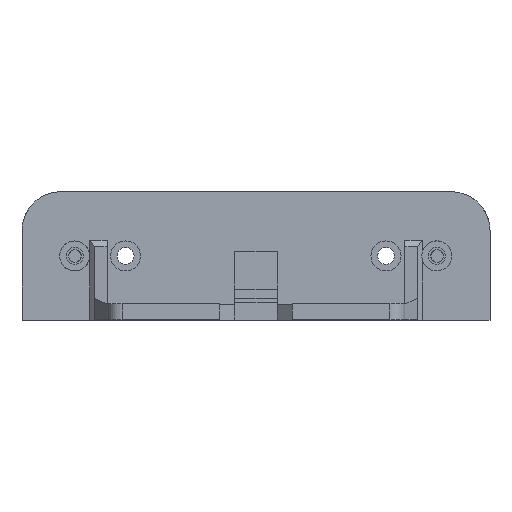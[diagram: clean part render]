
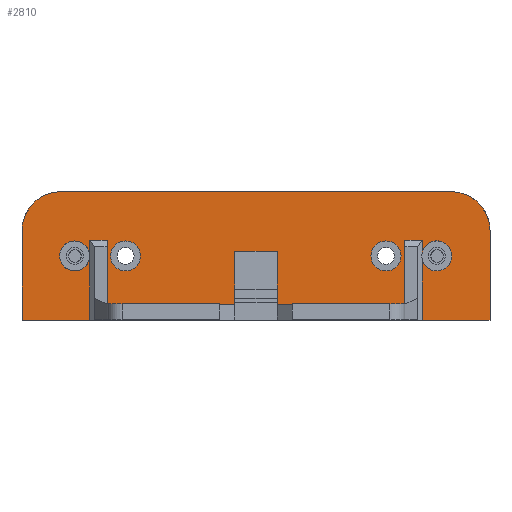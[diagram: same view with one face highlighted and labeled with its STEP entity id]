
A CAD part, top view. The second image highlights one B-rep face of the part: STEP entity #2810.
In plain terms, the highlighted planar face has unit normal (0, 0, 1).
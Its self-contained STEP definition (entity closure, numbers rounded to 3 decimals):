
#113=FACE_BOUND('',#434,.T.);
#114=FACE_BOUND('',#435,.T.);
#147=CIRCLE('',#3001,3.);
#148=CIRCLE('',#3002,7.79);
#149=CIRCLE('',#3003,7.79);
#150=CIRCLE('',#3004,3.);
#151=CIRCLE('',#3005,3.);
#152=CIRCLE('',#3006,3.);
#153=CIRCLE('',#3007,3.);
#274=FACE_OUTER_BOUND('',#433,.T.);
#433=EDGE_LOOP('',(#1917,#1918,#1919,#1920,#1921,#1922,#1923,#1924,#1925,
#1926,#1927,#1928,#1929,#1930,#1931,#1932,#1933,#1934,#1935,#1936,#1937,
#1938,#1939));
#434=EDGE_LOOP('',(#1940));
#435=EDGE_LOOP('',(#1941));
#604=LINE('',#4135,#881);
#617=LINE('',#4162,#894);
#622=LINE('',#4182,#899);
#635=LINE('',#4217,#912);
#636=LINE('',#4221,#913);
#640=LINE('',#4231,#917);
#644=LINE('',#4239,#921);
#645=LINE('',#4242,#922);
#646=LINE('',#4245,#923);
#647=LINE('',#4247,#924);
#648=LINE('',#4251,#925);
#649=LINE('',#4255,#926);
#650=LINE('',#4257,#927);
#651=LINE('',#4259,#928);
#652=LINE('',#4265,#929);
#653=LINE('',#4267,#930);
#654=LINE('',#4268,#931);
#655=LINE('',#4269,#932);
#881=VECTOR('',#3279,10.);
#894=VECTOR('',#3296,10.);
#899=VECTOR('',#3313,10.);
#912=VECTOR('',#3338,10.);
#913=VECTOR('',#3341,10.);
#917=VECTOR('',#3349,10.);
#921=VECTOR('',#3353,10.);
#922=VECTOR('',#3358,10.);
#923=VECTOR('',#3361,10.);
#924=VECTOR('',#3362,10.);
#925=VECTOR('',#3365,10.);
#926=VECTOR('',#3368,10.);
#927=VECTOR('',#3369,10.);
#928=VECTOR('',#3370,10.);
#929=VECTOR('',#3375,10.);
#930=VECTOR('',#3376,10.);
#931=VECTOR('',#3377,10.);
#932=VECTOR('',#3378,10.);
#1157=VERTEX_POINT('',#4130);
#1158=VERTEX_POINT('',#4134);
#1170=VERTEX_POINT('',#4160);
#1177=VERTEX_POINT('',#4175);
#1179=VERTEX_POINT('',#4181);
#1195=VERTEX_POINT('',#4215);
#1196=VERTEX_POINT('',#4219);
#1197=VERTEX_POINT('',#4220);
#1200=VERTEX_POINT('',#4228);
#1204=VERTEX_POINT('',#4236);
#1205=VERTEX_POINT('',#4238);
#1206=VERTEX_POINT('',#4244);
#1207=VERTEX_POINT('',#4246);
#1208=VERTEX_POINT('',#4248);
#1209=VERTEX_POINT('',#4250);
#1210=VERTEX_POINT('',#4252);
#1211=VERTEX_POINT('',#4254);
#1212=VERTEX_POINT('',#4256);
#1213=VERTEX_POINT('',#4258);
#1214=VERTEX_POINT('',#4260);
#1215=VERTEX_POINT('',#4262);
#1216=VERTEX_POINT('',#4264);
#1217=VERTEX_POINT('',#4266);
#1218=VERTEX_POINT('',#4270);
#1219=VERTEX_POINT('',#4272);
#1434=EDGE_CURVE('',#1158,#1157,#604,.T.);
#1448=EDGE_CURVE('',#1170,#1157,#617,.T.);
#1457=EDGE_CURVE('',#1177,#1179,#622,.T.);
#1475=EDGE_CURVE('',#1177,#1195,#635,.T.);
#1476=EDGE_CURVE('',#1196,#1197,#636,.T.);
#1481=EDGE_CURVE('',#1200,#1196,#640,.T.);
#1485=EDGE_CURVE('',#1204,#1205,#644,.T.);
#1487=EDGE_CURVE('',#1170,#1197,#645,.T.);
#1488=EDGE_CURVE('',#1200,#1205,#147,.T.);
#1489=EDGE_CURVE('',#1204,#1206,#646,.T.);
#1490=EDGE_CURVE('',#1206,#1207,#647,.T.);
#1491=EDGE_CURVE('',#1208,#1207,#148,.T.);
#1492=EDGE_CURVE('',#1209,#1208,#648,.T.);
#1493=EDGE_CURVE('',#1210,#1209,#149,.T.);
#1494=EDGE_CURVE('',#1211,#1210,#649,.T.);
#1495=EDGE_CURVE('',#1211,#1212,#650,.T.);
#1496=EDGE_CURVE('',#1213,#1212,#651,.T.);
#1497=EDGE_CURVE('',#1213,#1214,#150,.T.);
#1498=EDGE_CURVE('',#1214,#1215,#151,.T.);
#1499=EDGE_CURVE('',#1216,#1215,#652,.T.);
#1500=EDGE_CURVE('',#1217,#1216,#653,.T.);
#1501=EDGE_CURVE('',#1217,#1179,#654,.T.);
#1502=EDGE_CURVE('',#1195,#1158,#655,.T.);
#1503=EDGE_CURVE('',#1218,#1218,#152,.T.);
#1504=EDGE_CURVE('',#1219,#1219,#153,.T.);
#1917=ORIENTED_EDGE('',*,*,#1487,.T.);
#1918=ORIENTED_EDGE('',*,*,#1476,.F.);
#1919=ORIENTED_EDGE('',*,*,#1481,.F.);
#1920=ORIENTED_EDGE('',*,*,#1488,.T.);
#1921=ORIENTED_EDGE('',*,*,#1485,.F.);
#1922=ORIENTED_EDGE('',*,*,#1489,.T.);
#1923=ORIENTED_EDGE('',*,*,#1490,.T.);
#1924=ORIENTED_EDGE('',*,*,#1491,.F.);
#1925=ORIENTED_EDGE('',*,*,#1492,.F.);
#1926=ORIENTED_EDGE('',*,*,#1493,.F.);
#1927=ORIENTED_EDGE('',*,*,#1494,.F.);
#1928=ORIENTED_EDGE('',*,*,#1495,.T.);
#1929=ORIENTED_EDGE('',*,*,#1496,.F.);
#1930=ORIENTED_EDGE('',*,*,#1497,.T.);
#1931=ORIENTED_EDGE('',*,*,#1498,.T.);
#1932=ORIENTED_EDGE('',*,*,#1499,.F.);
#1933=ORIENTED_EDGE('',*,*,#1500,.F.);
#1934=ORIENTED_EDGE('',*,*,#1501,.T.);
#1935=ORIENTED_EDGE('',*,*,#1457,.F.);
#1936=ORIENTED_EDGE('',*,*,#1475,.T.);
#1937=ORIENTED_EDGE('',*,*,#1502,.T.);
#1938=ORIENTED_EDGE('',*,*,#1434,.T.);
#1939=ORIENTED_EDGE('',*,*,#1448,.F.);
#1940=ORIENTED_EDGE('',*,*,#1503,.T.);
#1941=ORIENTED_EDGE('',*,*,#1504,.T.);
#2713=PLANE('',#3000);
#2810=ADVANCED_FACE('',(#274,#113,#114),#2713,.T.);
#3000=AXIS2_PLACEMENT_3D('',#4241,#3356,#3357);
#3001=AXIS2_PLACEMENT_3D('',#4243,#3359,#3360);
#3002=AXIS2_PLACEMENT_3D('',#4249,#3363,#3364);
#3003=AXIS2_PLACEMENT_3D('',#4253,#3366,#3367);
#3004=AXIS2_PLACEMENT_3D('',#4261,#3371,#3372);
#3005=AXIS2_PLACEMENT_3D('',#4263,#3373,#3374);
#3006=AXIS2_PLACEMENT_3D('',#4271,#3379,#3380);
#3007=AXIS2_PLACEMENT_3D('',#4273,#3381,#3382);
#3279=DIRECTION('',(0.,-1.,0.));
#3296=DIRECTION('',(-1.,0.,0.));
#3313=DIRECTION('',(-1.,0.,0.));
#3338=DIRECTION('',(0.,1.,0.));
#3341=DIRECTION('',(-1.,0.,0.));
#3349=DIRECTION('',(0.,1.,0.));
#3353=DIRECTION('',(0.,1.,0.));
#3356=DIRECTION('center_axis',(0.,0.,1.));
#3357=DIRECTION('ref_axis',(1.,0.,0.));
#3358=DIRECTION('',(0.,1.,0.));
#3359=DIRECTION('center_axis',(0.,0.,-1.));
#3360=DIRECTION('ref_axis',(1.,0.,0.));
#3361=DIRECTION('',(1.,0.,0.));
#3362=DIRECTION('',(0.,1.,0.));
#3363=DIRECTION('center_axis',(0.,0.,-1.));
#3364=DIRECTION('ref_axis',(0.707,0.707,0.));
#3365=DIRECTION('',(1.,0.,0.));
#3366=DIRECTION('center_axis',(0.,0.,-1.));
#3367=DIRECTION('ref_axis',(-0.707,0.707,0.));
#3368=DIRECTION('',(0.,1.,0.));
#3369=DIRECTION('',(1.,0.,0.));
#3370=DIRECTION('',(0.,-1.,0.));
#3371=DIRECTION('center_axis',(0.,0.,-1.));
#3372=DIRECTION('ref_axis',(1.,0.,0.));
#3373=DIRECTION('center_axis',(0.,0.,-1.));
#3374=DIRECTION('ref_axis',(1.,0.,0.));
#3375=DIRECTION('',(0.,-1.,0.));
#3376=DIRECTION('',(-1.,0.,0.));
#3377=DIRECTION('',(0.,-1.,0.));
#3378=DIRECTION('',(1.,0.,0.));
#3379=DIRECTION('center_axis',(0.,0.,-1.));
#3380=DIRECTION('ref_axis',(1.,0.,0.));
#3381=DIRECTION('center_axis',(0.,0.,-1.));
#3382=DIRECTION('ref_axis',(1.,0.,0.));
#4130=CARTESIAN_POINT('',(4.2,3.175,-82.59));
#4134=CARTESIAN_POINT('',(4.2,13.75,-82.59));
#4135=CARTESIAN_POINT('',(4.2,3.075,-82.59));
#4160=CARTESIAN_POINT('',(29.75,3.175,-82.59));
#4162=CARTESIAN_POINT('',(-23.388,3.175,-82.59));
#4175=CARTESIAN_POINT('',(-4.2,3.175,-82.59));
#4181=CARTESIAN_POINT('',(-29.75,3.175,-82.59));
#4182=CARTESIAN_POINT('',(-23.388,3.175,-82.59));
#4215=CARTESIAN_POINT('',(-4.2,13.75,-82.59));
#4217=CARTESIAN_POINT('',(-4.2,0.,-82.59));
#4219=CARTESIAN_POINT('',(33.25,16.,-82.59));
#4220=CARTESIAN_POINT('',(29.75,16.,-82.59));
#4221=CARTESIAN_POINT('',(-8.513,16.,-82.59));
#4228=CARTESIAN_POINT('',(33.25,13.637,-82.59));
#4231=CARTESIAN_POINT('',(33.25,3.75,-82.59));
#4236=CARTESIAN_POINT('',(33.25,0.,-82.59));
#4238=CARTESIAN_POINT('',(33.25,12.063,-82.59));
#4239=CARTESIAN_POINT('',(33.25,3.75,-82.59));
#4241=CARTESIAN_POINT('Origin',(-46.775,0.,-82.59));
#4242=CARTESIAN_POINT('',(29.75,3.75,-82.59));
#4243=CARTESIAN_POINT('Origin',(36.145,12.85,-82.59));
#4244=CARTESIAN_POINT('',(46.775,0.,-82.59));
#4245=CARTESIAN_POINT('',(-46.775,0.,-82.59));
#4246=CARTESIAN_POINT('',(46.775,17.91,-82.59));
#4247=CARTESIAN_POINT('',(46.775,0.,-82.59));
#4248=CARTESIAN_POINT('',(38.985,25.7,-82.59));
#4249=CARTESIAN_POINT('Origin',(38.985,17.91,-82.59));
#4250=CARTESIAN_POINT('',(-38.985,25.7,-82.59));
#4251=CARTESIAN_POINT('',(-46.775,25.7,-82.59));
#4252=CARTESIAN_POINT('',(-46.775,17.91,-82.59));
#4253=CARTESIAN_POINT('Origin',(-38.985,17.91,-82.59));
#4254=CARTESIAN_POINT('',(-46.775,0.,-82.59));
#4255=CARTESIAN_POINT('',(-46.775,0.,-82.59));
#4256=CARTESIAN_POINT('',(-33.25,0.,-82.59));
#4257=CARTESIAN_POINT('',(-46.775,0.,-82.59));
#4258=CARTESIAN_POINT('',(-33.25,12.677,-82.59));
#4259=CARTESIAN_POINT('',(-33.25,3.75,-82.59));
#4260=CARTESIAN_POINT('',(-39.245,12.85,-82.59));
#4261=CARTESIAN_POINT('Origin',(-36.245,12.85,-82.59));
#4262=CARTESIAN_POINT('',(-33.25,13.023,-82.59));
#4263=CARTESIAN_POINT('Origin',(-36.245,12.85,-82.59));
#4264=CARTESIAN_POINT('',(-33.25,16.,-82.59));
#4265=CARTESIAN_POINT('',(-33.25,3.75,-82.59));
#4266=CARTESIAN_POINT('',(-29.75,16.,-82.59));
#4267=CARTESIAN_POINT('',(-38.263,16.,-82.59));
#4268=CARTESIAN_POINT('',(-29.75,3.75,-82.59));
#4269=CARTESIAN_POINT('',(-21.288,13.75,-82.59));
#4270=CARTESIAN_POINT('',(22.985,12.85,-82.59));
#4271=CARTESIAN_POINT('Origin',(25.985,12.85,-82.59));
#4272=CARTESIAN_POINT('',(-29.085,12.85,-82.59));
#4273=CARTESIAN_POINT('Origin',(-26.085,12.85,-82.59));
